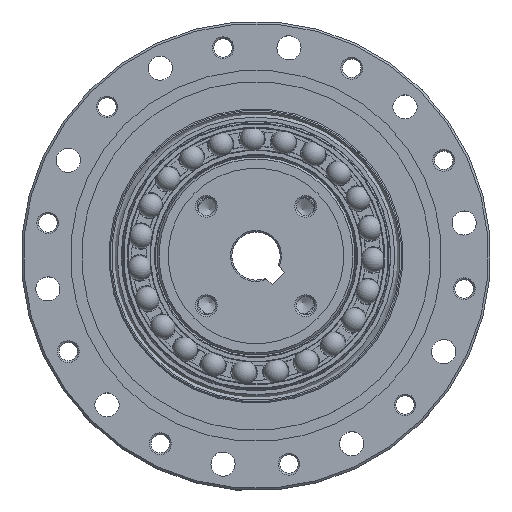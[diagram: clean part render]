
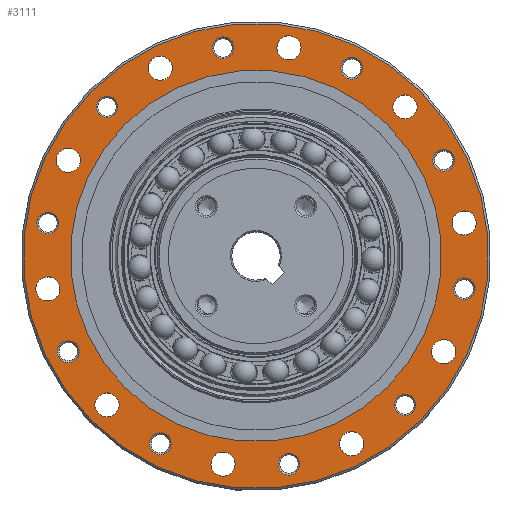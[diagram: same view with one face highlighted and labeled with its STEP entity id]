
A CAD part, top view. The second image highlights one B-rep face of the part: STEP entity #3111.
In plain terms, the highlighted planar face has unit normal (0, 0, 1) as drawn and (0, 1, 0) by its records, which use the part's own axes.
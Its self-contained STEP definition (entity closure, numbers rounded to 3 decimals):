
#1843=PLANE('',#10798);
#2015=FACE_BOUND('',#4276,.T.);
#2016=FACE_BOUND('',#4277,.T.);
#2017=FACE_BOUND('',#4278,.T.);
#2018=FACE_BOUND('',#4279,.T.);
#2019=FACE_BOUND('',#4280,.T.);
#2020=FACE_BOUND('',#4281,.T.);
#2021=FACE_BOUND('',#4282,.T.);
#2022=FACE_BOUND('',#4283,.T.);
#2023=FACE_BOUND('',#4284,.T.);
#2024=FACE_BOUND('',#4285,.T.);
#2025=FACE_BOUND('',#4286,.T.);
#2026=FACE_BOUND('',#4287,.T.);
#2027=FACE_BOUND('',#4288,.T.);
#2028=FACE_BOUND('',#4289,.T.);
#2029=FACE_BOUND('',#4290,.T.);
#2030=FACE_BOUND('',#4291,.T.);
#2031=FACE_BOUND('',#4292,.T.);
#2032=FACE_BOUND('',#4293,.T.);
#2033=FACE_BOUND('',#4294,.T.);
#2034=FACE_BOUND('',#4295,.T.);
#2035=FACE_BOUND('',#4296,.T.);
#2036=FACE_BOUND('',#4297,.T.);
#3111=ADVANCED_FACE('F24',(#2015,#2016,#2017,#2018,#2019,#2020,#2021,#2022,
#2023,#2024,#2025,#2026,#2027,#2028,#2029,#2030,#2031,#2032,#2033,#2034,
#2035,#2036),#1843,.T.);
#4276=EDGE_LOOP('',(#6026));
#4277=EDGE_LOOP('',(#6027));
#4278=EDGE_LOOP('',(#6028));
#4279=EDGE_LOOP('',(#6029));
#4280=EDGE_LOOP('',(#6030));
#4281=EDGE_LOOP('',(#6031));
#4282=EDGE_LOOP('',(#6032));
#4283=EDGE_LOOP('',(#6033));
#4284=EDGE_LOOP('',(#6034));
#4285=EDGE_LOOP('',(#6035));
#4286=EDGE_LOOP('',(#6036));
#4287=EDGE_LOOP('',(#6037));
#4288=EDGE_LOOP('',(#6038));
#4289=EDGE_LOOP('',(#6039));
#4290=EDGE_LOOP('',(#6040));
#4291=EDGE_LOOP('',(#6041));
#4292=EDGE_LOOP('',(#6042));
#4293=EDGE_LOOP('',(#6043));
#4294=EDGE_LOOP('',(#6044));
#4295=EDGE_LOOP('',(#6045));
#4296=EDGE_LOOP('',(#6046));
#4297=EDGE_LOOP('',(#6047));
#6026=ORIENTED_EDGE('',*,*,#8927,.T.);
#6027=ORIENTED_EDGE('',*,*,#8928,.T.);
#6028=ORIENTED_EDGE('',*,*,#8929,.T.);
#6029=ORIENTED_EDGE('',*,*,#8930,.T.);
#6030=ORIENTED_EDGE('',*,*,#8931,.T.);
#6031=ORIENTED_EDGE('',*,*,#8932,.T.);
#6032=ORIENTED_EDGE('',*,*,#8933,.T.);
#6033=ORIENTED_EDGE('',*,*,#8934,.T.);
#6034=ORIENTED_EDGE('',*,*,#8935,.T.);
#6035=ORIENTED_EDGE('',*,*,#8936,.T.);
#6036=ORIENTED_EDGE('',*,*,#8937,.F.);
#6037=ORIENTED_EDGE('',*,*,#8846,.T.);
#6038=ORIENTED_EDGE('',*,*,#8913,.T.);
#6039=ORIENTED_EDGE('',*,*,#8907,.T.);
#6040=ORIENTED_EDGE('',*,*,#8901,.T.);
#6041=ORIENTED_EDGE('',*,*,#8895,.T.);
#6042=ORIENTED_EDGE('',*,*,#8889,.T.);
#6043=ORIENTED_EDGE('',*,*,#8892,.T.);
#6044=ORIENTED_EDGE('',*,*,#8898,.T.);
#6045=ORIENTED_EDGE('',*,*,#8904,.T.);
#6046=ORIENTED_EDGE('',*,*,#8910,.T.);
#6047=ORIENTED_EDGE('',*,*,#8916,.T.);
#7952=VERTEX_POINT('',#15243);
#7976=VERTEX_POINT('',#15332);
#7978=VERTEX_POINT('',#15338);
#7980=VERTEX_POINT('',#15344);
#7982=VERTEX_POINT('',#15350);
#7984=VERTEX_POINT('',#15356);
#7986=VERTEX_POINT('',#15362);
#7988=VERTEX_POINT('',#15368);
#7990=VERTEX_POINT('',#15374);
#7992=VERTEX_POINT('',#15380);
#7994=VERTEX_POINT('',#15386);
#8006=VERTEX_POINT('',#15413);
#8007=VERTEX_POINT('',#15415);
#8008=VERTEX_POINT('',#15417);
#8009=VERTEX_POINT('',#15419);
#8010=VERTEX_POINT('',#15421);
#8011=VERTEX_POINT('',#15423);
#8012=VERTEX_POINT('',#15425);
#8013=VERTEX_POINT('',#15427);
#8014=VERTEX_POINT('',#15429);
#8015=VERTEX_POINT('',#15431);
#8016=VERTEX_POINT('',#15433);
#8846=EDGE_CURVE('',#7952,#7952,#9909,.T.);
#8889=EDGE_CURVE('',#7976,#7976,#9934,.T.);
#8892=EDGE_CURVE('',#7978,#7978,#9936,.T.);
#8895=EDGE_CURVE('',#7980,#7980,#9938,.T.);
#8898=EDGE_CURVE('',#7982,#7982,#9940,.T.);
#8901=EDGE_CURVE('',#7984,#7984,#9942,.T.);
#8904=EDGE_CURVE('',#7986,#7986,#9944,.T.);
#8907=EDGE_CURVE('',#7988,#7988,#9946,.T.);
#8910=EDGE_CURVE('',#7990,#7990,#9948,.T.);
#8913=EDGE_CURVE('',#7992,#7992,#9950,.T.);
#8916=EDGE_CURVE('',#7994,#7994,#9952,.T.);
#8927=EDGE_CURVE('',#8006,#8006,#9963,.T.);
#8928=EDGE_CURVE('',#8007,#8007,#9964,.T.);
#8929=EDGE_CURVE('',#8008,#8008,#9965,.T.);
#8930=EDGE_CURVE('',#8009,#8009,#9966,.T.);
#8931=EDGE_CURVE('',#8010,#8010,#9967,.T.);
#8932=EDGE_CURVE('',#8011,#8011,#9968,.T.);
#8933=EDGE_CURVE('',#8012,#8012,#9969,.T.);
#8934=EDGE_CURVE('',#8013,#8013,#9970,.T.);
#8935=EDGE_CURVE('',#8014,#8014,#9971,.T.);
#8936=EDGE_CURVE('',#8015,#8015,#9972,.T.);
#8937=EDGE_CURVE('',#8016,#8016,#9973,.T.);
#9909=CIRCLE('',#10700,53.);
#9934=CIRCLE('',#10747,2.75);
#9936=CIRCLE('',#10750,2.75);
#9938=CIRCLE('',#10753,2.75);
#9940=CIRCLE('',#10756,2.75);
#9942=CIRCLE('',#10759,2.75);
#9944=CIRCLE('',#10762,2.75);
#9946=CIRCLE('',#10765,2.75);
#9948=CIRCLE('',#10768,2.75);
#9950=CIRCLE('',#10771,2.75);
#9952=CIRCLE('',#10774,2.75);
#9963=CIRCLE('',#10787,2.5);
#9964=CIRCLE('',#10788,2.5);
#9965=CIRCLE('',#10789,2.5);
#9966=CIRCLE('',#10790,2.5);
#9967=CIRCLE('',#10791,2.5);
#9968=CIRCLE('',#10792,2.5);
#9969=CIRCLE('',#10793,2.5);
#9970=CIRCLE('',#10794,2.5);
#9971=CIRCLE('',#10795,2.5);
#9972=CIRCLE('',#10796,2.5);
#9973=CIRCLE('',#10797,42.3);
#10700=AXIS2_PLACEMENT_3D('',#15246,#12242,#12243);
#10747=AXIS2_PLACEMENT_3D('',#15335,#12354,#12355);
#10750=AXIS2_PLACEMENT_3D('',#15341,#12361,#12362);
#10753=AXIS2_PLACEMENT_3D('',#15347,#12368,#12369);
#10756=AXIS2_PLACEMENT_3D('',#15353,#12375,#12376);
#10759=AXIS2_PLACEMENT_3D('',#15359,#12382,#12383);
#10762=AXIS2_PLACEMENT_3D('',#15365,#12389,#12390);
#10765=AXIS2_PLACEMENT_3D('',#15371,#12396,#12397);
#10768=AXIS2_PLACEMENT_3D('',#15377,#12403,#12404);
#10771=AXIS2_PLACEMENT_3D('',#15383,#12410,#12411);
#10774=AXIS2_PLACEMENT_3D('',#15389,#12417,#12418);
#10787=AXIS2_PLACEMENT_3D('',#15412,#12443,#12444);
#10788=AXIS2_PLACEMENT_3D('',#15414,#12445,#12446);
#10789=AXIS2_PLACEMENT_3D('',#15416,#12447,#12448);
#10790=AXIS2_PLACEMENT_3D('',#15418,#12449,#12450);
#10791=AXIS2_PLACEMENT_3D('',#15420,#12451,#12452);
#10792=AXIS2_PLACEMENT_3D('',#15422,#12453,#12454);
#10793=AXIS2_PLACEMENT_3D('',#15424,#12455,#12456);
#10794=AXIS2_PLACEMENT_3D('',#15426,#12457,#12458);
#10795=AXIS2_PLACEMENT_3D('',#15428,#12459,#12460);
#10796=AXIS2_PLACEMENT_3D('',#15430,#12461,#12462);
#10797=AXIS2_PLACEMENT_3D('',#15432,#12463,#12464);
#10798=AXIS2_PLACEMENT_3D('',#15434,#12465,#12466);
#12242=DIRECTION('',(0.,1.,0.));
#12243=DIRECTION('',(-1.,0.,0.));
#12354=DIRECTION('',(0.,-1.,0.));
#12355=DIRECTION('',(1.,0.,0.));
#12361=DIRECTION('',(0.,-1.,0.));
#12362=DIRECTION('',(0.809,0.,-0.588));
#12368=DIRECTION('',(0.,-1.,0.));
#12369=DIRECTION('',(0.309,0.,-0.951));
#12375=DIRECTION('',(0.,-1.,0.));
#12376=DIRECTION('',(-0.309,0.,-0.951));
#12382=DIRECTION('',(0.,-1.,0.));
#12383=DIRECTION('',(-0.809,0.,-0.588));
#12389=DIRECTION('',(0.,-1.,0.));
#12390=DIRECTION('',(-1.,0.,0.));
#12396=DIRECTION('',(0.,-1.,0.));
#12397=DIRECTION('',(-0.809,0.,0.588));
#12403=DIRECTION('',(0.,-1.,0.));
#12404=DIRECTION('',(-0.309,0.,0.951));
#12410=DIRECTION('',(0.,-1.,0.));
#12411=DIRECTION('',(0.309,0.,0.951));
#12417=DIRECTION('',(0.,-1.,0.));
#12418=DIRECTION('',(0.809,0.,0.588));
#12443=DIRECTION('',(0.,-1.,0.));
#12444=DIRECTION('',(-1.,0.,0.));
#12445=DIRECTION('',(0.,-1.,0.));
#12446=DIRECTION('',(-1.,0.,0.));
#12447=DIRECTION('',(0.,-1.,0.));
#12448=DIRECTION('',(-1.,0.,0.));
#12449=DIRECTION('',(0.,-1.,0.));
#12450=DIRECTION('',(-1.,0.,0.));
#12451=DIRECTION('',(0.,-1.,0.));
#12452=DIRECTION('',(-1.,0.,0.));
#12453=DIRECTION('',(0.,-1.,0.));
#12454=DIRECTION('',(-1.,0.,0.));
#12455=DIRECTION('',(0.,-1.,0.));
#12456=DIRECTION('',(-1.,0.,0.));
#12457=DIRECTION('',(0.,-1.,0.));
#12458=DIRECTION('',(-1.,0.,0.));
#12459=DIRECTION('',(0.,-1.,0.));
#12460=DIRECTION('',(-1.,0.,0.));
#12461=DIRECTION('',(0.,-1.,0.));
#12462=DIRECTION('',(-1.,0.,0.));
#12463=DIRECTION('',(0.,1.,0.));
#12464=DIRECTION('',(1.,0.,0.));
#12465=DIRECTION('',(0.,1.,0.));
#12466=DIRECTION('',(-1.,0.,0.));
#15243=CARTESIAN_POINT('',(-53.,29.3,0.));
#15246=CARTESIAN_POINT('',(0.,29.3,0.));
#15332=CARTESIAN_POINT('',(-45.25,29.3,0.));
#15335=CARTESIAN_POINT('',(-48.,29.3,0.));
#15338=CARTESIAN_POINT('',(-36.608,29.3,26.597));
#15341=CARTESIAN_POINT('',(-38.833,29.3,28.214));
#15344=CARTESIAN_POINT('',(-13.983,29.3,43.035));
#15347=CARTESIAN_POINT('',(-14.833,29.3,45.651));
#15350=CARTESIAN_POINT('',(13.983,29.3,43.035));
#15353=CARTESIAN_POINT('',(14.833,29.3,45.651));
#15356=CARTESIAN_POINT('',(36.608,29.3,26.597));
#15359=CARTESIAN_POINT('',(38.833,29.3,28.214));
#15362=CARTESIAN_POINT('',(45.25,29.3,0.));
#15365=CARTESIAN_POINT('',(48.,29.3,0.));
#15368=CARTESIAN_POINT('',(36.608,29.3,-26.597));
#15371=CARTESIAN_POINT('',(38.833,29.3,-28.214));
#15374=CARTESIAN_POINT('',(13.983,29.3,-43.035));
#15377=CARTESIAN_POINT('',(14.833,29.3,-45.651));
#15380=CARTESIAN_POINT('',(-13.983,29.3,-43.035));
#15383=CARTESIAN_POINT('',(-14.833,29.3,-45.651));
#15386=CARTESIAN_POINT('',(-36.608,29.3,-26.597));
#15389=CARTESIAN_POINT('',(-38.833,29.3,-28.214));
#15412=CARTESIAN_POINT('',(45.651,29.3,14.833));
#15413=CARTESIAN_POINT('',(43.151,29.3,14.833));
#15414=CARTESIAN_POINT('',(28.214,29.3,38.833));
#15415=CARTESIAN_POINT('',(25.714,29.3,38.833));
#15416=CARTESIAN_POINT('',(0.,29.3,48.));
#15417=CARTESIAN_POINT('',(-2.5,29.3,48.));
#15418=CARTESIAN_POINT('',(-28.214,29.3,38.833));
#15419=CARTESIAN_POINT('',(-30.714,29.3,38.833));
#15420=CARTESIAN_POINT('',(-45.651,29.3,14.833));
#15421=CARTESIAN_POINT('',(-48.151,29.3,14.833));
#15422=CARTESIAN_POINT('',(-45.651,29.3,-14.833));
#15423=CARTESIAN_POINT('',(-48.151,29.3,-14.833));
#15424=CARTESIAN_POINT('',(-28.214,29.3,-38.833));
#15425=CARTESIAN_POINT('',(-30.714,29.3,-38.833));
#15426=CARTESIAN_POINT('',(0.,29.3,-48.));
#15427=CARTESIAN_POINT('',(-2.5,29.3,-48.));
#15428=CARTESIAN_POINT('',(28.214,29.3,-38.833));
#15429=CARTESIAN_POINT('',(25.714,29.3,-38.833));
#15430=CARTESIAN_POINT('',(45.651,29.3,-14.833));
#15431=CARTESIAN_POINT('',(43.151,29.3,-14.833));
#15432=CARTESIAN_POINT('',(0.,29.3,0.));
#15433=CARTESIAN_POINT('',(42.3,29.3,0.));
#15434=CARTESIAN_POINT('',(0.,29.3,0.));
